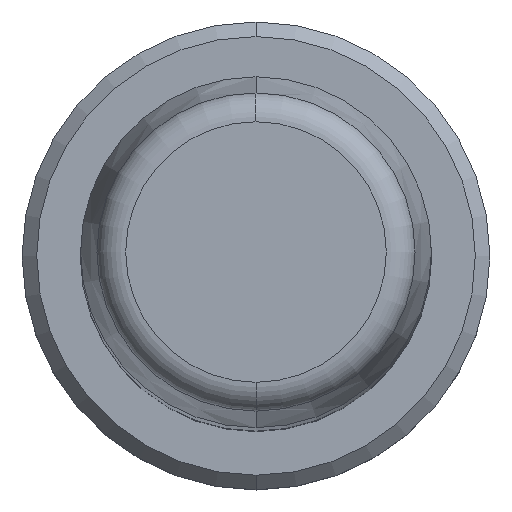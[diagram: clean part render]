
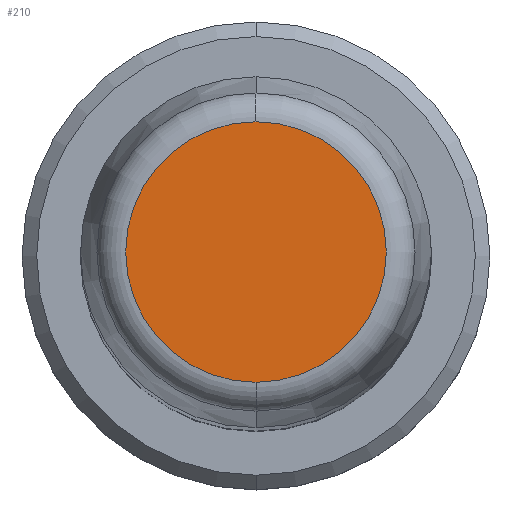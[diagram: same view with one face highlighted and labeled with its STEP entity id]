
A CAD part, top view. The second image highlights one B-rep face of the part: STEP entity #210.
In plain terms, the highlighted planar face has unit normal (0, 0, 1).
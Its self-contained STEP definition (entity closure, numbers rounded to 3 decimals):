
#1=CARTESIAN_POINT('',(0.,0.,80.));
#2=DIRECTION('',(0.,0.,-1.));
#3=DIRECTION('',(0.,-1.,0.));
#4=AXIS2_PLACEMENT_3D('',#1,#2,#3);
#6=CARTESIAN_POINT('',(0.,0.,80.));
#7=DIRECTION('',(0.,0.,-1.));
#8=DIRECTION('',(0.,1.,0.));
#9=AXIS2_PLACEMENT_3D('',#6,#7,#8);
#183=CARTESIAN_POINT('',(0.,-4.456,80.));
#184=CARTESIAN_POINT('',(0.,4.456,80.));
#185=VERTEX_POINT('',#183);
#186=VERTEX_POINT('',#184);
#199=CARTESIAN_POINT('',(0.,0.,80.));
#200=DIRECTION('',(0.,0.,1.));
#201=DIRECTION('',(0.,-1.,0.));
#202=AXIS2_PLACEMENT_3D('',#199,#200,#201);
#203=PLANE('',#202);
#205=ORIENTED_EDGE('',*,*,#204,.T.);
#207=ORIENTED_EDGE('',*,*,#206,.T.);
#208=EDGE_LOOP('',(#205,#207));
#209=FACE_OUTER_BOUND('',#208,.F.);
#210=ADVANCED_FACE('',(#209),#203,.T.);
#5=CIRCLE('',#4,4.456);
#10=CIRCLE('',#9,4.456);
#204=EDGE_CURVE('',#185,#186,#5,.T.);
#206=EDGE_CURVE('',#186,#185,#10,.T.);
